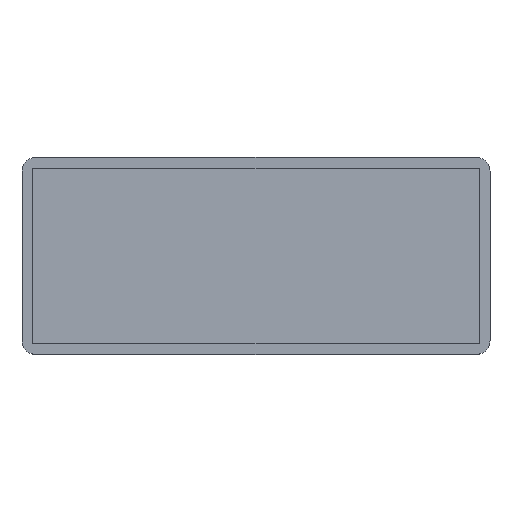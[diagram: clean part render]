
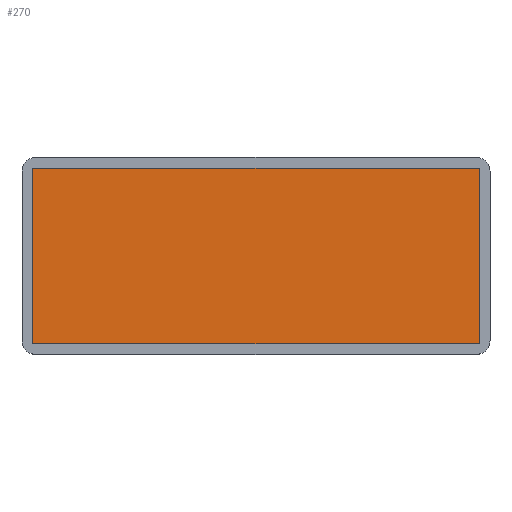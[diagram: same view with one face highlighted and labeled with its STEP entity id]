
A CAD part, top view. The second image highlights one B-rep face of the part: STEP entity #270.
In plain terms, the highlighted planar face has unit normal (0, 0, 1).
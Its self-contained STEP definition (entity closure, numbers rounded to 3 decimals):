
#24=PLANE('',#307);
#39=FACE_OUTER_BOUND('',#54,.T.);
#54=EDGE_LOOP('',(#234,#235,#236,#237));
#75=LINE('',#441,#103);
#79=LINE('',#448,#107);
#82=LINE('',#454,#110);
#84=LINE('',#457,#112);
#103=VECTOR('',#363,10.);
#107=VECTOR('',#369,10.);
#110=VECTOR('',#374,10.);
#112=VECTOR('',#378,10.);
#140=VERTEX_POINT('',#438);
#141=VERTEX_POINT('',#440);
#143=VERTEX_POINT('',#446);
#145=VERTEX_POINT('',#452);
#171=EDGE_CURVE('',#140,#141,#75,.T.);
#175=EDGE_CURVE('',#143,#140,#79,.T.);
#178=EDGE_CURVE('',#145,#143,#82,.T.);
#180=EDGE_CURVE('',#141,#145,#84,.T.);
#234=ORIENTED_EDGE('',*,*,#180,.F.);
#235=ORIENTED_EDGE('',*,*,#171,.F.);
#236=ORIENTED_EDGE('',*,*,#175,.F.);
#237=ORIENTED_EDGE('',*,*,#178,.F.);
#270=ADVANCED_FACE('',(#39),#24,.F.);
#307=AXIS2_PLACEMENT_3D('',#458,#379,#380);
#363=DIRECTION('',(-1.,0.,0.));
#369=DIRECTION('',(0.,-1.,0.));
#374=DIRECTION('',(1.,0.,0.));
#378=DIRECTION('',(0.,1.,0.));
#379=DIRECTION('center_axis',(0.,0.,-1.));
#380=DIRECTION('ref_axis',(-1.,0.,0.));
#438=CARTESIAN_POINT('',(81.5,0.,-4.));
#440=CARTESIAN_POINT('',(0.,0.,-4.));
#441=CARTESIAN_POINT('',(0.,0.,-4.));
#446=CARTESIAN_POINT('',(81.5,32.,-4.));
#448=CARTESIAN_POINT('',(81.5,0.,-4.));
#452=CARTESIAN_POINT('',(0.,32.,-4.));
#454=CARTESIAN_POINT('',(81.5,32.,-4.));
#457=CARTESIAN_POINT('',(0.,32.,-4.));
#458=CARTESIAN_POINT('Origin',(40.75,16.,-4.));
